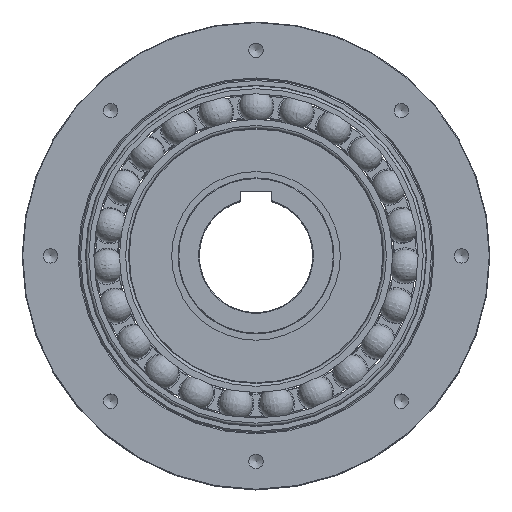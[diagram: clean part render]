
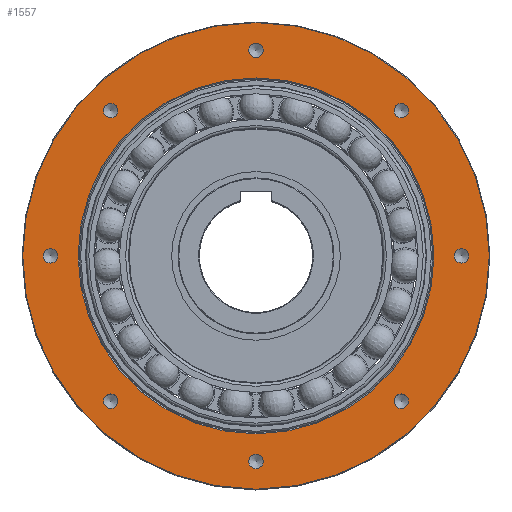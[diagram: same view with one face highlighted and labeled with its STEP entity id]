
A CAD part, top view. The second image highlights one B-rep face of the part: STEP entity #1557.
In plain terms, the highlighted planar face has unit normal (0, 0, 1).
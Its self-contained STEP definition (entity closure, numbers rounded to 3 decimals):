
#40 = CARTESIAN_POINT ( 'NONE',  ( 0., 0., 50.5 ) ) ;
#43 = VERTEX_POINT ( 'NONE', #2587 ) ;
#71 = ORIENTED_EDGE ( 'NONE', *, *, #6472, .F. ) ;
#84 = DIRECTION ( 'NONE',  ( 0., 0., 1. ) ) ;
#194 = ORIENTED_EDGE ( 'NONE', *, *, #5565, .F. ) ;
#205 = CIRCLE ( 'NONE', #7601, 164.6 ) ;
#235 = CARTESIAN_POINT ( 'NONE',  ( 102.53, -102.53, 50.5 ) ) ;
#279 = CARTESIAN_POINT ( 'NONE',  ( 5.1, -145., 50.5 ) ) ;
#294 = DIRECTION ( 'NONE',  ( 0., 0., -1. ) ) ;
#378 = EDGE_LOOP ( 'NONE', ( #3594 ) ) ;
#436 = DIRECTION ( 'NONE',  ( 1., 0., 0. ) ) ;
#549 = FACE_BOUND ( 'NONE', #2100, .T. ) ;
#580 = CIRCLE ( 'NONE', #7880, 5.1 ) ;
#632 = AXIS2_PLACEMENT_3D ( 'NONE', #4400, #84, #5125 ) ;
#761 = DIRECTION ( 'NONE',  ( -1., 0., 0. ) ) ;
#766 = FACE_BOUND ( 'NONE', #4970, .T. ) ;
#916 = CIRCLE ( 'NONE', #8839, 5.1 ) ;
#935 = VERTEX_POINT ( 'NONE', #4686 ) ;
#955 = DIRECTION ( 'NONE',  ( 1., 0., 0. ) ) ;
#978 = ORIENTED_EDGE ( 'NONE', *, *, #1390, .T. ) ;
#1015 = EDGE_LOOP ( 'NONE', ( #6195 ) ) ;
#1209 = ORIENTED_EDGE ( 'NONE', *, *, #8641, .F. ) ;
#1390 = EDGE_CURVE ( 'NONE', #8720, #8720, #205, .T. ) ;
#1557 = ADVANCED_FACE ( 'NONE', ( #766, #2913, #4382, #2468, #549, #8201, #7975, #6066, #4154, #2243 ), #5300, .F. ) ;
#1561 = DIRECTION ( 'NONE',  ( 0., 0., 1. ) ) ;
#1661 = CIRCLE ( 'NONE', #7966, 125.55 ) ;
#1702 = DIRECTION ( 'NONE',  ( 0., 0., -1. ) ) ;
#1841 = CIRCLE ( 'NONE', #632, 5.1 ) ;
#1845 = CARTESIAN_POINT ( 'NONE',  ( -97.43, 102.53, 50.5 ) ) ;
#1919 = EDGE_CURVE ( 'NONE', #2754, #2754, #580, .T. ) ;
#1997 = EDGE_LOOP ( 'NONE', ( #6390 ) ) ;
#2058 = EDGE_CURVE ( 'NONE', #8259, #8259, #4989, .T. ) ;
#2100 = EDGE_LOOP ( 'NONE', ( #194 ) ) ;
#2243 = FACE_OUTER_BOUND ( 'NONE', #8482, .T. ) ;
#2325 = AXIS2_PLACEMENT_3D ( 'NONE', #4104, #9145, #4840 ) ;
#2410 = ORIENTED_EDGE ( 'NONE', *, *, #5629, .T. ) ;
#2468 = FACE_BOUND ( 'NONE', #378, .T. ) ;
#2563 = AXIS2_PLACEMENT_3D ( 'NONE', #5887, #1561, #6611 ) ;
#2587 = CARTESIAN_POINT ( 'NONE',  ( 107.63, 102.53, 50.5 ) ) ;
#2743 = DIRECTION ( 'NONE',  ( 0., 0., 1. ) ) ;
#2754 = VERTEX_POINT ( 'NONE', #8908 ) ;
#2770 = DIRECTION ( 'NONE',  ( 0., 0., 1. ) ) ;
#2861 = VERTEX_POINT ( 'NONE', #9010 ) ;
#2913 = FACE_BOUND ( 'NONE', #1015, .T. ) ;
#3548 = VERTEX_POINT ( 'NONE', #5486 ) ;
#3594 = ORIENTED_EDGE ( 'NONE', *, *, #2058, .F. ) ;
#3597 = CARTESIAN_POINT ( 'NONE',  ( 0., 145., 50.5 ) ) ;
#3860 = VERTEX_POINT ( 'NONE', #1845 ) ;
#4067 = CARTESIAN_POINT ( 'NONE',  ( 5.1, 145., 50.5 ) ) ;
#4093 = VERTEX_POINT ( 'NONE', #4720 ) ;
#4104 = CARTESIAN_POINT ( 'NONE',  ( -145., 0., 50.5 ) ) ;
#4154 = FACE_BOUND ( 'NONE', #7395, .T. ) ;
#4324 = DIRECTION ( 'NONE',  ( 1., 0., 0. ) ) ;
#4382 = FACE_BOUND ( 'NONE', #1997, .T. ) ;
#4400 = CARTESIAN_POINT ( 'NONE',  ( -102.53, 102.53, 50.5 ) ) ;
#4439 = ORIENTED_EDGE ( 'NONE', *, *, #6898, .F. ) ;
#4610 = CARTESIAN_POINT ( 'NONE',  ( 0., 0., 50.5 ) ) ;
#4686 = CARTESIAN_POINT ( 'NONE',  ( -125.55, 0., 50.5 ) ) ;
#4720 = CARTESIAN_POINT ( 'NONE',  ( 150.1, 0., 50.5 ) ) ;
#4750 = DIRECTION ( 'NONE',  ( 0., 0., 1. ) ) ;
#4826 = CIRCLE ( 'NONE', #6348, 5.1 ) ;
#4840 = DIRECTION ( 'NONE',  ( 1., 0., 0. ) ) ;
#4970 = EDGE_LOOP ( 'NONE', ( #4439 ) ) ;
#4989 = CIRCLE ( 'NONE', #6747, 5.1 ) ;
#5022 = VERTEX_POINT ( 'NONE', #4067 ) ;
#5094 = DIRECTION ( 'NONE',  ( 0., 0., 1. ) ) ;
#5125 = DIRECTION ( 'NONE',  ( 1., 0., 0. ) ) ;
#5277 = EDGE_LOOP ( 'NONE', ( #1209 ) ) ;
#5281 = DIRECTION ( 'NONE',  ( 0., 0., 1. ) ) ;
#5300 = PLANE ( 'NONE',  #8722 ) ;
#5336 = DIRECTION ( 'NONE',  ( -1., 0., 0. ) ) ;
#5486 = CARTESIAN_POINT ( 'NONE',  ( -139.9, 0., 50.5 ) ) ;
#5565 = EDGE_CURVE ( 'NONE', #2861, #2861, #9097, .T. ) ;
#5629 = EDGE_CURVE ( 'NONE', #935, #935, #1661, .T. ) ;
#5887 = CARTESIAN_POINT ( 'NONE',  ( 102.53, 102.53, 50.5 ) ) ;
#6010 = CARTESIAN_POINT ( 'NONE',  ( -164.6, 0., 50.5 ) ) ;
#6012 = CARTESIAN_POINT ( 'NONE',  ( 0., 165., 50.5 ) ) ;
#6040 = AXIS2_PLACEMENT_3D ( 'NONE', #235, #5281, #955 ) ;
#6066 = FACE_BOUND ( 'NONE', #5277, .T. ) ;
#6195 = ORIENTED_EDGE ( 'NONE', *, *, #7651, .F. ) ;
#6348 = AXIS2_PLACEMENT_3D ( 'NONE', #7077, #2743, #7778 ) ;
#6390 = ORIENTED_EDGE ( 'NONE', *, *, #1919, .F. ) ;
#6472 = EDGE_CURVE ( 'NONE', #4093, #4093, #4826, .T. ) ;
#6611 = DIRECTION ( 'NONE',  ( 1., 0., 0. ) ) ;
#6747 = AXIS2_PLACEMENT_3D ( 'NONE', #7104, #2770, #7804 ) ;
#6755 = DIRECTION ( 'NONE',  ( -1., 0., 0. ) ) ;
#6898 = EDGE_CURVE ( 'NONE', #3860, #3860, #1841, .T. ) ;
#6908 = EDGE_CURVE ( 'NONE', #43, #43, #7164, .T. ) ;
#7077 = CARTESIAN_POINT ( 'NONE',  ( 145., 0., 50.5 ) ) ;
#7104 = CARTESIAN_POINT ( 'NONE',  ( 0., -145., 50.5 ) ) ;
#7164 = CIRCLE ( 'NONE', #2563, 5.1 ) ;
#7294 = EDGE_LOOP ( 'NONE', ( #7856 ) ) ;
#7395 = EDGE_LOOP ( 'NONE', ( #2410 ) ) ;
#7601 = AXIS2_PLACEMENT_3D ( 'NONE', #40, #5094, #761 ) ;
#7651 = EDGE_CURVE ( 'NONE', #3548, #3548, #7688, .T. ) ;
#7688 = CIRCLE ( 'NONE', #2325, 5.1 ) ;
#7778 = DIRECTION ( 'NONE',  ( 1., 0., 0. ) ) ;
#7804 = DIRECTION ( 'NONE',  ( 1., 0., 0. ) ) ;
#7856 = ORIENTED_EDGE ( 'NONE', *, *, #6908, .F. ) ;
#7880 = AXIS2_PLACEMENT_3D ( 'NONE', #9057, #4750, #436 ) ;
#7966 = AXIS2_PLACEMENT_3D ( 'NONE', #4610, #294, #5336 ) ;
#7975 = FACE_BOUND ( 'NONE', #7294, .T. ) ;
#8201 = FACE_BOUND ( 'NONE', #8215, .T. ) ;
#8215 = EDGE_LOOP ( 'NONE', ( #71 ) ) ;
#8259 = VERTEX_POINT ( 'NONE', #279 ) ;
#8482 = EDGE_LOOP ( 'NONE', ( #978 ) ) ;
#8638 = DIRECTION ( 'NONE',  ( 0., 0., 1. ) ) ;
#8641 = EDGE_CURVE ( 'NONE', #5022, #5022, #916, .T. ) ;
#8720 = VERTEX_POINT ( 'NONE', #6010 ) ;
#8722 = AXIS2_PLACEMENT_3D ( 'NONE', #6012, #1702, #6755 ) ;
#8839 = AXIS2_PLACEMENT_3D ( 'NONE', #3597, #8638, #4324 ) ;
#8908 = CARTESIAN_POINT ( 'NONE',  ( -97.43, -102.53, 50.5 ) ) ;
#9010 = CARTESIAN_POINT ( 'NONE',  ( 107.63, -102.53, 50.5 ) ) ;
#9057 = CARTESIAN_POINT ( 'NONE',  ( -102.53, -102.53, 50.5 ) ) ;
#9097 = CIRCLE ( 'NONE', #6040, 5.1 ) ;
#9145 = DIRECTION ( 'NONE',  ( 0., 0., 1. ) ) ;
